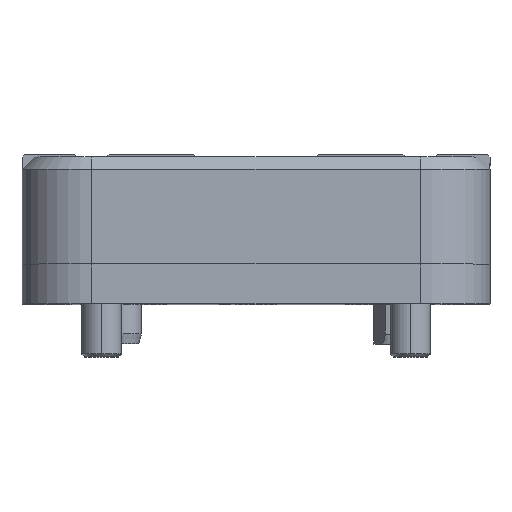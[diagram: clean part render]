
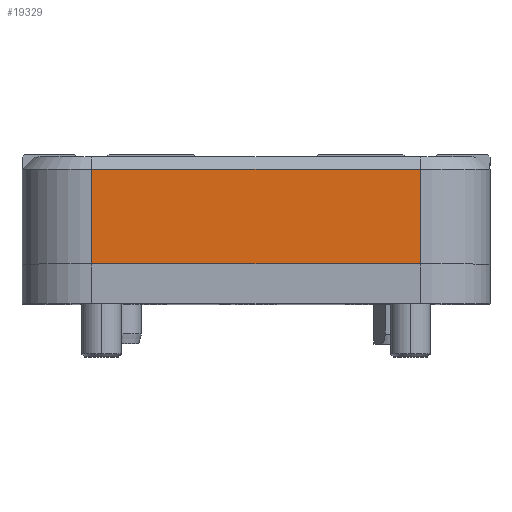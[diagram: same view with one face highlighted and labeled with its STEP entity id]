
A CAD part, top view. The second image highlights one B-rep face of the part: STEP entity #19329.
In plain terms, the highlighted planar face has unit normal (0, 0, 1).
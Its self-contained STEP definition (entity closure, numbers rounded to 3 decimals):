
#149 = CARTESIAN_POINT ( 'NONE',  ( 0., 17., 0. ) ) ;
#601 = CARTESIAN_POINT ( 'NONE',  ( 0., 17., 0. ) ) ;
#1405 = FACE_OUTER_BOUND ( 'NONE', #21378, .T. ) ;
#1609 = ORIENTED_EDGE ( 'NONE', *, *, #12274, .T. ) ;
#2251 = LINE ( 'NONE', #6541, #19994 ) ;
#2582 = LINE ( 'NONE', #11045, #20866 ) ;
#3214 = VERTEX_POINT ( 'NONE', #6721 ) ;
#3554 = DIRECTION ( 'NONE',  ( 1., 0., 0. ) ) ;
#4295 = DIRECTION ( 'NONE',  ( 1., 0., 0. ) ) ;
#4415 = VECTOR ( 'NONE', #3554, 1000. ) ;
#4910 = EDGE_CURVE ( 'NONE', #21518, #3214, #15889, .T. ) ;
#6541 = CARTESIAN_POINT ( 'NONE',  ( 80., 17., 0. ) ) ;
#6721 = CARTESIAN_POINT ( 'NONE',  ( 80., -2., 0. ) ) ;
#7464 = DIRECTION ( 'NONE',  ( -1., 0., 0. ) ) ;
#7675 = CARTESIAN_POINT ( 'NONE',  ( 0., -2., 0. ) ) ;
#8262 = CARTESIAN_POINT ( 'NONE',  ( 80., 17., 0. ) ) ;
#9115 = PLANE ( 'NONE',  #10931 ) ;
#10789 = VECTOR ( 'NONE', #4295, 1000. ) ;
#10931 = AXIS2_PLACEMENT_3D ( 'NONE', #601, #17763, #7464 ) ;
#11045 = CARTESIAN_POINT ( 'NONE',  ( 14., 17., 0. ) ) ;
#11970 = ORIENTED_EDGE ( 'NONE', *, *, #20862, .F. ) ;
#12274 = EDGE_CURVE ( 'NONE', #17253, #21518, #2582, .T. ) ;
#12677 = ORIENTED_EDGE ( 'NONE', *, *, #4910, .T. ) ;
#12790 = DIRECTION ( 'NONE',  ( 0., -1., 0. ) ) ;
#13481 = DIRECTION ( 'NONE',  ( 0., 1., 0. ) ) ;
#14317 = ORIENTED_EDGE ( 'NONE', *, *, #18146, .T. ) ;
#15889 = LINE ( 'NONE', #7675, #10789 ) ;
#17253 = VERTEX_POINT ( 'NONE', #20275 ) ;
#17382 = CARTESIAN_POINT ( 'NONE',  ( 14., -2., 0. ) ) ;
#17763 = DIRECTION ( 'NONE',  ( 0., 0., -1. ) ) ;
#18136 = LINE ( 'NONE', #149, #4415 ) ;
#18146 = EDGE_CURVE ( 'NONE', #3214, #20164, #2251, .T. ) ;
#19329 = ADVANCED_FACE ( 'NONE', ( #1405 ), #9115, .F. ) ;
#19994 = VECTOR ( 'NONE', #13481, 1000. ) ;
#20164 = VERTEX_POINT ( 'NONE', #8262 ) ;
#20275 = CARTESIAN_POINT ( 'NONE',  ( 14., 17., 0. ) ) ;
#20862 = EDGE_CURVE ( 'NONE', #17253, #20164, #18136, .T. ) ;
#20866 = VECTOR ( 'NONE', #12790, 1000. ) ;
#21378 = EDGE_LOOP ( 'NONE', ( #1609, #12677, #14317, #11970 ) ) ;
#21518 = VERTEX_POINT ( 'NONE', #17382 ) ;
